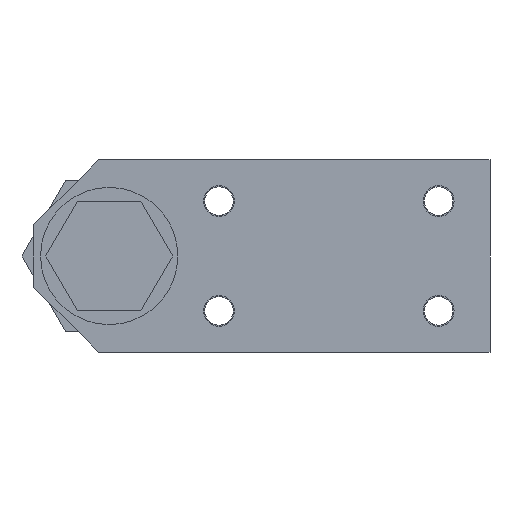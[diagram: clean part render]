
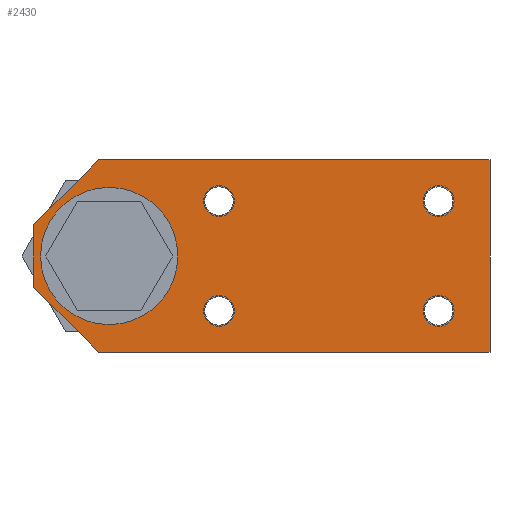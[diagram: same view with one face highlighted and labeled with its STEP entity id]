
A CAD part, left-side view. The second image highlights one B-rep face of the part: STEP entity #2430.
In plain terms, the highlighted planar face has unit normal (-1, 0, 0).
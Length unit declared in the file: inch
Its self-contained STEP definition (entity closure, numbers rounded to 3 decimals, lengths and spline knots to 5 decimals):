
#2027=DIRECTION('',(0.,0.,1.));
#2028=VECTOR('',#2027,0.56954);
#2029=CARTESIAN_POINT('',(-3.1925,0.6875,-0.28477));
#2030=LINE('',#2029,#2028);
#2105=DIRECTION('',(0.,1.,0.));
#2106=VECTOR('',#2105,3.56477);
#2107=CARTESIAN_POINT('',(-3.1925,-3.4675,-0.875));
#2108=LINE('',#2107,#2106);
#2109=DIRECTION('',(0.,-0.707,-0.707));
#2110=VECTOR('',#2109,0.83471);
#2111=CARTESIAN_POINT('',(-3.1925,0.6875,-0.28477));
#2112=LINE('',#2111,#2110);
#2113=DIRECTION('',(0.,0.707,-0.707));
#2114=VECTOR('',#2113,0.83471);
#2115=CARTESIAN_POINT('',(-3.1925,0.09727,0.875));
#2116=LINE('',#2115,#2114);
#2117=CARTESIAN_POINT('',(-3.1925,-1.,-0.5));
#2118=DIRECTION('',(1.,0.,0.));
#2119=DIRECTION('',(0.,-1.,0.));
#2120=AXIS2_PLACEMENT_3D('',#2117,#2118,#2119);
#2122=CARTESIAN_POINT('',(-3.1925,-1.,-0.5));
#2123=DIRECTION('',(1.,0.,0.));
#2124=DIRECTION('',(0.,1.,0.));
#2125=AXIS2_PLACEMENT_3D('',#2122,#2123,#2124);
#2127=CARTESIAN_POINT('',(-3.1925,-3.,-0.5));
#2128=DIRECTION('',(1.,0.,0.));
#2129=DIRECTION('',(0.,-1.,0.));
#2130=AXIS2_PLACEMENT_3D('',#2127,#2128,#2129);
#2132=CARTESIAN_POINT('',(-3.1925,-3.,-0.5));
#2133=DIRECTION('',(1.,0.,0.));
#2134=DIRECTION('',(0.,1.,0.));
#2135=AXIS2_PLACEMENT_3D('',#2132,#2133,#2134);
#2137=CARTESIAN_POINT('',(-3.1925,-3.,0.5));
#2138=DIRECTION('',(1.,0.,0.));
#2139=DIRECTION('',(0.,-1.,0.));
#2140=AXIS2_PLACEMENT_3D('',#2137,#2138,#2139);
#2142=CARTESIAN_POINT('',(-3.1925,-3.,0.5));
#2143=DIRECTION('',(1.,0.,0.));
#2144=DIRECTION('',(0.,1.,0.));
#2145=AXIS2_PLACEMENT_3D('',#2142,#2143,#2144);
#2147=CARTESIAN_POINT('',(-3.1925,-1.,0.5));
#2148=DIRECTION('',(1.,0.,0.));
#2149=DIRECTION('',(0.,-1.,0.));
#2150=AXIS2_PLACEMENT_3D('',#2147,#2148,#2149);
#2152=CARTESIAN_POINT('',(-3.1925,-1.,0.5));
#2153=DIRECTION('',(1.,0.,0.));
#2154=DIRECTION('',(0.,1.,0.));
#2155=AXIS2_PLACEMENT_3D('',#2152,#2153,#2154);
#2157=CARTESIAN_POINT('',(-3.1925,0.,0.));
#2158=DIRECTION('',(1.,0.,0.));
#2159=DIRECTION('',(0.,-1.,0.));
#2160=AXIS2_PLACEMENT_3D('',#2157,#2158,#2159);
#2162=CARTESIAN_POINT('',(-3.1925,0.,0.));
#2163=DIRECTION('',(1.,0.,0.));
#2164=DIRECTION('',(0.,1.,0.));
#2165=AXIS2_PLACEMENT_3D('',#2162,#2163,#2164);
#2175=DIRECTION('',(0.,-1.,0.));
#2176=VECTOR('',#2175,3.56477);
#2177=CARTESIAN_POINT('',(-3.1925,0.09727,0.875));
#2178=LINE('',#2177,#2176);
#2179=DIRECTION('',(0.,0.,-1.));
#2180=VECTOR('',#2179,1.75);
#2181=CARTESIAN_POINT('',(-3.1925,-3.4675,0.875));
#2182=LINE('',#2181,#2180);
#2227=CARTESIAN_POINT('',(-3.1925,0.6875,-0.28477));
#2229=VERTEX_POINT('',#2227);
#2233=CARTESIAN_POINT('',(-3.1925,0.09727,-0.875));
#2234=VERTEX_POINT('',#2233);
#2239=CARTESIAN_POINT('',(-3.1925,0.6875,0.28477));
#2240=VERTEX_POINT('',#2239);
#2245=CARTESIAN_POINT('',(-3.1925,-3.4675,-0.875));
#2246=VERTEX_POINT('',#2245);
#2247=CARTESIAN_POINT('',(-3.1925,0.09727,0.875));
#2248=VERTEX_POINT('',#2247);
#2249=CARTESIAN_POINT('',(-3.1925,-3.4675,0.875));
#2250=VERTEX_POINT('',#2249);
#2251=CARTESIAN_POINT('',(-3.1925,-0.85938,-0.5));
#2253=VERTEX_POINT('',#2251);
#2255=CARTESIAN_POINT('',(-3.1925,-1.14063,-0.5));
#2257=VERTEX_POINT('',#2255);
#2259=CARTESIAN_POINT('',(-3.1925,-2.85938,-0.5));
#2261=VERTEX_POINT('',#2259);
#2263=CARTESIAN_POINT('',(-3.1925,-3.14063,-0.5));
#2265=VERTEX_POINT('',#2263);
#2267=CARTESIAN_POINT('',(-3.1925,-2.85938,0.5));
#2269=VERTEX_POINT('',#2267);
#2271=CARTESIAN_POINT('',(-3.1925,-3.14063,0.5));
#2273=VERTEX_POINT('',#2271);
#2276=CARTESIAN_POINT('',(-3.1925,-0.625,0.));
#2278=VERTEX_POINT('',#2276);
#2280=CARTESIAN_POINT('',(-3.1925,0.625,0.));
#2282=VERTEX_POINT('',#2280);
#2283=CARTESIAN_POINT('',(-3.1925,-0.85938,0.5));
#2285=VERTEX_POINT('',#2283);
#2287=CARTESIAN_POINT('',(-3.1925,-1.14063,0.5));
#2289=VERTEX_POINT('',#2287);
#2384=CARTESIAN_POINT('',(-3.1925,-1.59673,0.));
#2385=DIRECTION('',(1.,0.,0.));
#2386=DIRECTION('',(0.,-1.,0.));
#2387=AXIS2_PLACEMENT_3D('',#2384,#2385,#2386);
#2388=PLANE('',#2387);
#2389=ORIENTED_EDGE('',*,*,#2298,.F.);
#2390=ORIENTED_EDGE('',*,*,#2317,.T.);
#2392=ORIENTED_EDGE('',*,*,#2391,.F.);
#2394=ORIENTED_EDGE('',*,*,#2393,.T.);
#2396=ORIENTED_EDGE('',*,*,#2395,.T.);
#2397=ORIENTED_EDGE('',*,*,#2376,.T.);
#2398=EDGE_LOOP('',(#2389,#2390,#2392,#2394,#2396,#2397));
#2399=FACE_OUTER_BOUND('',#2398,.F.);
#2401=ORIENTED_EDGE('',*,*,#2400,.F.);
#2403=ORIENTED_EDGE('',*,*,#2402,.F.);
#2404=EDGE_LOOP('',(#2401,#2403));
#2405=FACE_BOUND('',#2404,.F.);
#2407=ORIENTED_EDGE('',*,*,#2406,.F.);
#2409=ORIENTED_EDGE('',*,*,#2408,.F.);
#2410=EDGE_LOOP('',(#2407,#2409));
#2411=FACE_BOUND('',#2410,.F.);
#2413=ORIENTED_EDGE('',*,*,#2412,.F.);
#2415=ORIENTED_EDGE('',*,*,#2414,.F.);
#2416=EDGE_LOOP('',(#2413,#2415));
#2417=FACE_BOUND('',#2416,.F.);
#2419=ORIENTED_EDGE('',*,*,#2418,.F.);
#2421=ORIENTED_EDGE('',*,*,#2420,.F.);
#2422=EDGE_LOOP('',(#2419,#2421));
#2423=FACE_BOUND('',#2422,.F.);
#2425=ORIENTED_EDGE('',*,*,#2424,.F.);
#2427=ORIENTED_EDGE('',*,*,#2426,.F.);
#2428=EDGE_LOOP('',(#2425,#2427));
#2429=FACE_BOUND('',#2428,.F.);
#2121=CIRCLE('',#2120,0.14063);
#2126=CIRCLE('',#2125,0.14063);
#2131=CIRCLE('',#2130,0.14063);
#2136=CIRCLE('',#2135,0.14063);
#2141=CIRCLE('',#2140,0.14063);
#2146=CIRCLE('',#2145,0.14063);
#2151=CIRCLE('',#2150,0.14063);
#2156=CIRCLE('',#2155,0.14063);
#2161=CIRCLE('',#2160,0.625);
#2166=CIRCLE('',#2165,0.625);
#2298=EDGE_CURVE('',#2229,#2234,#2112,.T.);
#2317=EDGE_CURVE('',#2229,#2240,#2030,.T.);
#2376=EDGE_CURVE('',#2246,#2234,#2108,.T.);
#2391=EDGE_CURVE('',#2248,#2240,#2116,.T.);
#2393=EDGE_CURVE('',#2248,#2250,#2178,.T.);
#2395=EDGE_CURVE('',#2250,#2246,#2182,.T.);
#2400=EDGE_CURVE('',#2257,#2253,#2121,.T.);
#2402=EDGE_CURVE('',#2253,#2257,#2126,.T.);
#2406=EDGE_CURVE('',#2265,#2261,#2131,.T.);
#2408=EDGE_CURVE('',#2261,#2265,#2136,.T.);
#2412=EDGE_CURVE('',#2273,#2269,#2141,.T.);
#2414=EDGE_CURVE('',#2269,#2273,#2146,.T.);
#2418=EDGE_CURVE('',#2289,#2285,#2151,.T.);
#2420=EDGE_CURVE('',#2285,#2289,#2156,.T.);
#2424=EDGE_CURVE('',#2278,#2282,#2161,.T.);
#2426=EDGE_CURVE('',#2282,#2278,#2166,.T.);
#2430=ADVANCED_FACE('',(#2399,#2405,#2411,#2417,#2423,#2429),#2388,.F.);
